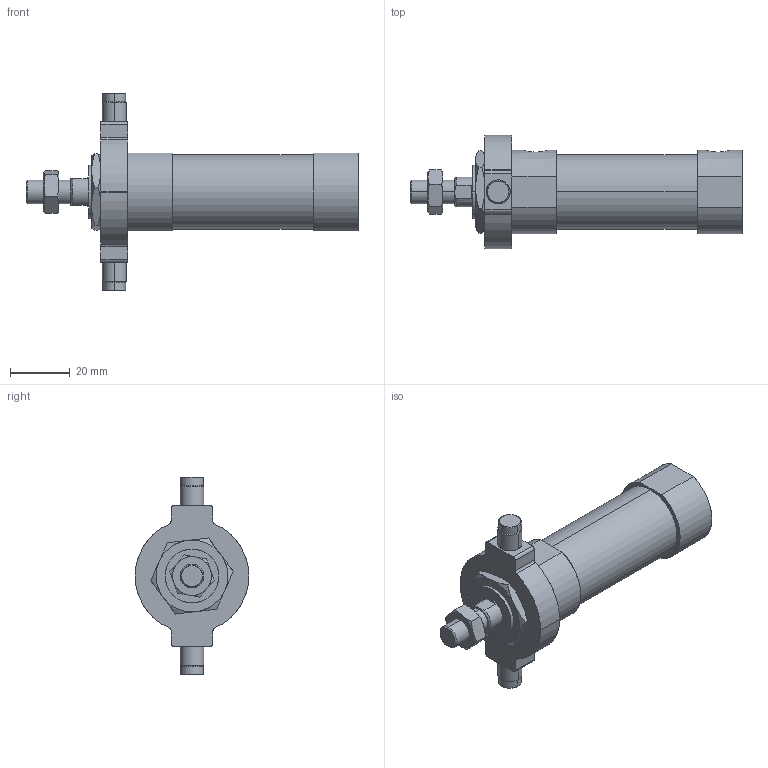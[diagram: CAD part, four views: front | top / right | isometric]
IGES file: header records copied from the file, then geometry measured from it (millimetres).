
Start section: SolidWorks IGES file using analytic representation for surfaces
Global section: file name: C:\Users\Toshiba\Desktop\JGND2-20-15-T.IGS; native system: SolidWorks 2014; preprocessor: SolidWorks 2014; author: Toshiba; date: 160804.102029; units: millimetre
Bounding box: 111 x 38 x 66 mm (x, y, z)
Surface area: 15451.9 mm2 (no closed solid volume)
Topology: 0 solids, 0 shells, 123 faces, 1972 edges, 1972 vertices
Faces by surface type: bspline 68, revolution 55
